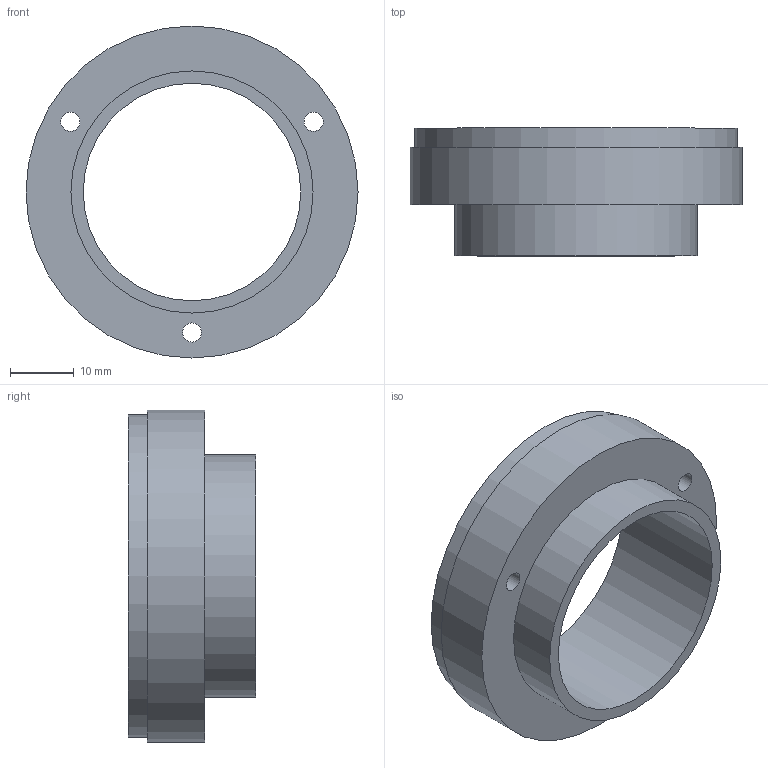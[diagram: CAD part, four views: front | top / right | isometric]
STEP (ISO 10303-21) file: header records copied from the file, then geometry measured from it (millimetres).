
FILE_DESCRIPTION(/* description */ (''),/* implementation_level */ '2;1');
FILE_NAME(/* name */ 'C:\Users\strothej\Documents\ActualDocuments\MicroscopeParts\TwoPhotonSystem\ScanningMechanics\v35\Drawings\Camera_Mount_60N.stp',/* time_stamp */ '2017-10-06T13:06:09-07:00',/* author */ ('strothej'),/* organization */ (''),/* preprocessor_version */ 'ST-DEVELOPER v16.1',/* originating_system */ 'Autodesk Inventor 2016',/* authorisation */ '');
FILE_SCHEMA (('AUTOMOTIVE_DESIGN { 1 0 10303 214 3 1 1 }'));
Length unit declared in the file: millimetre
Products named in the file (1): Camera_Mount_60N
Bounding box: 52 x 20 x 52 mm (x, y, z)
Volume: 15345.2 mm3; surface area: 7910.8 mm2
Topology: 1 solids, 1 shells, 17 faces, 31 edges, 21 vertices
Faces by surface type: cylinder 10, plane 7
Full cylindrical faces by diameter (mm): 3 x3, 5 x3, 34.08 x1, 37.92 x1, 50.45 x1, 52 x1
Entity records: 414 total; most frequent: DIRECTION 76, CARTESIAN_POINT 58, EDGE_LOOP 40, ORIENTED_EDGE 40, AXIS2_PLACEMENT_3D 38, FACE_BOUND 23, CIRCLE 20, VERTEX_POINT 20
